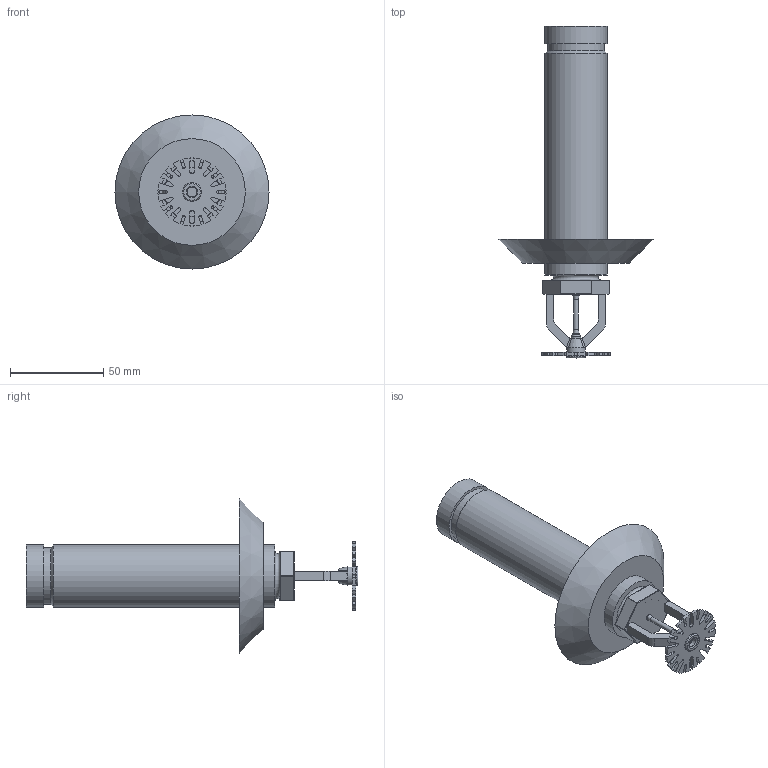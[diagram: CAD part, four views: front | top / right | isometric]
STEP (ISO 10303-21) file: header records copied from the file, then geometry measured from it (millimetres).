
FILE_DESCRIPTION(/* description */ ('VIC SPRINKLER V3608 K8.0 DRY PENDENT QUICK RESPONSE (IGS)','CAx-IF Rec.Pracs.---Representation and Presentation of Product Manufacturing Information (PMI)---4.0---2014-10-13'),/* implementation_level */ '2;1');
FILE_NAME(/* name */ 'C:\Users\kkamble\AppData\Roaming\Autodesk\ApplicationPlugins\Victaulic.Temp\A660\Victaulic_FP-Sprinkler_V3608_DRY_QR_Pendent (IGS)_SLEEVE & SKIRT_1 (25).stp',/* time_stamp */ '2021-03-29T16:30:22+05:00',/* author */ ('kkamble'),/* organization */ ('Victaulic'),/* preprocessor_version */ 'ST-DEVELOPER v17.2',/* originating_system */ 'Autodesk Inventor 2019',/* authorisation */ '');
FILE_SCHEMA (('AP242_MANAGED_MODEL_BASED_3D_ENGINEERING_MIM_LF { 1 0 10303 442 1 1 4 }'));
Length unit declared in the file: inch
Products named in the file (2): V3608_Sleeve & Skirt-01.0; V3608-01.0
Assembly tree (1 placements, depth 2):
  V3608_Sleeve & Skirt-01.0
    V3608-01.0
Bounding box: 82.55 x 177.8 x 82.55 mm (x, y, z)
Volume: 90205 mm3; surface area: 41252 mm2
Topology: 1 solids, 1 shells, 225 faces, 614 edges, 395 vertices
Faces by surface type: plane 106, cylinder 87, sphere 12, bspline 8, cone 7, torus 5
Full cylindrical faces by diameter (mm): 2.54 x1, 5.08 x2, 10.16 x2, 20.93 x1, 26.645 x1, 30.226 x1, 33.401 x3
Entity records: 7681 total; most frequent: CARTESIAN_POINT 1552, DIRECTION 1254, ORIENTED_EDGE 1220, EDGE_CURVE 610, AXIS2_PLACEMENT_3D 455, VERTEX_POINT 395, LINE 344, VECTOR 344
